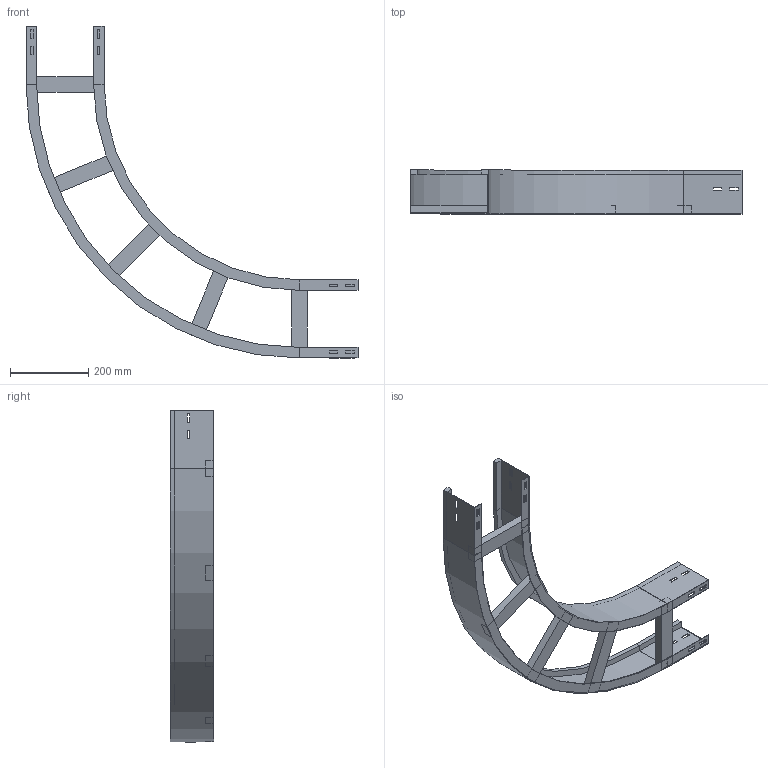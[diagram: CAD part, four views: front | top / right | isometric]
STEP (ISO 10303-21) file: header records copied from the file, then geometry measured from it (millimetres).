
FILE_DESCRIPTION (( 'STEP AP214' ), '1' );
FILE_NAME ('10B5J200.step', '2025-02-21T15:23:57', ( '' ), ( '' ), 'SwSTEP 2.0', 'SolidWorks 2023', '' );
FILE_SCHEMA (( 'AUTOMOTIVE_DESIGN' ));
Length unit declared in the file: millimetre
Products named in the file (4): A2_LONGH.ESTERNO 90°_H112.5_R500+200; A2_LONGH.INTERNO 90°_H112.5_R500; 10B5J200; TRAVERSINO_200
Assembly tree (7 placements, depth 2):
  10B5J200
    A2_LONGH.INTERNO 90°_H112.5_R500
    A2_LONGH.ESTERNO 90°_H112.5_R500+200
    TRAVERSINO_200  x5
Bounding box: 850 x 112.5 x 850 mm (x, y, z)
Volume: 1949346.3 mm3; surface area: 898297.2 mm2
Topology: 7 solids, 7 shells, 146 faces, 364 edges, 232 vertices
Faces by surface type: plane 138, cylinder 8
Entity records: 3837 total; most frequent: CARTESIAN_POINT 648, ORIENTED_EDGE 632, DIRECTION 596, EDGE_CURVE 316, LINE 300, VECTOR 300, VERTEX_POINT 200, EDGE_LOOP 154
